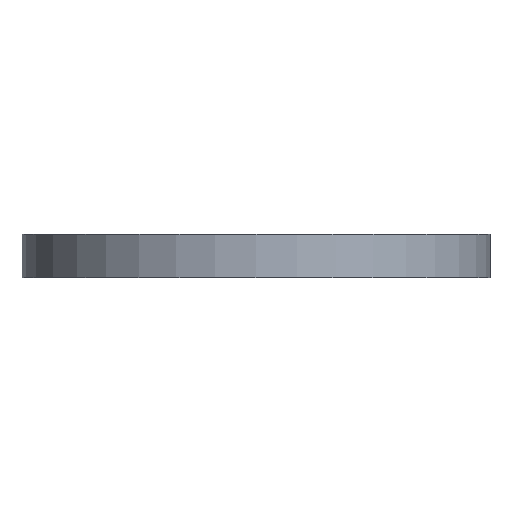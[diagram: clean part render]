
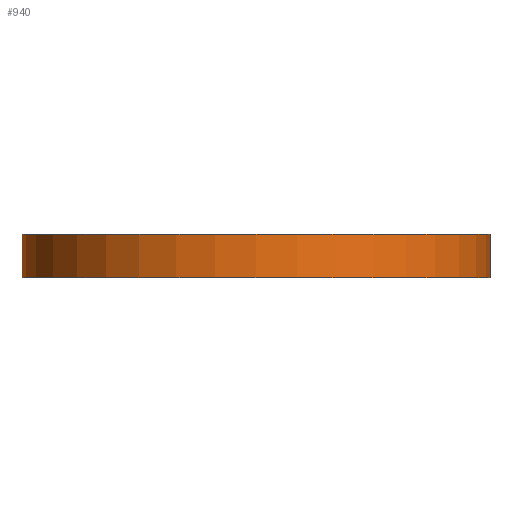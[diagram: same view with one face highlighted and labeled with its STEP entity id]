
A CAD part, front view. The second image highlights one B-rep face of the part: STEP entity #940.
In plain terms, the highlighted cylindrical face has radius 257.5 mm (diameter 515 mm), a partial arc.
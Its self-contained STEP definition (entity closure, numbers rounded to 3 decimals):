
#46 = VERTEX_POINT ( 'NONE', #1213 ) ;
#55 = AXIS2_PLACEMENT_3D ( 'NONE', #1034, #1033, #1032 ) ;
#82 = ORIENTED_EDGE ( 'NONE', *, *, #320, .F. ) ;
#85 = ORIENTED_EDGE ( 'NONE', *, *, #164, .F. ) ;
#86 = ORIENTED_EDGE ( 'NONE', *, *, #356, .T. ) ;
#96 = ORIENTED_EDGE ( 'NONE', *, *, #445, .F. ) ;
#148 = VERTEX_POINT ( 'NONE', #1165 ) ;
#164 = EDGE_CURVE ( 'NONE', #1393, #46, #1300, .T. ) ;
#248 = CARTESIAN_POINT ( 'NONE',  ( 257.5, 0., -48. ) ) ;
#320 = EDGE_CURVE ( 'NONE', #46, #148, #1082, .T. ) ;
#323 = CARTESIAN_POINT ( 'NONE',  ( 257.5, 0., 0. ) ) ;
#356 = EDGE_CURVE ( 'NONE', #1393, #1311, #1072, .T. ) ;
#403 = VECTOR ( 'NONE', #1078, 1000. ) ;
#445 = EDGE_CURVE ( 'NONE', #148, #1311, #464, .T. ) ;
#464 = CIRCLE ( 'NONE', #55, 257.5 ) ;
#610 = DIRECTION ( 'NONE',  ( 1., 0., 0. ) ) ;
#611 = DIRECTION ( 'NONE',  ( 0., 0., 1. ) ) ;
#613 = CARTESIAN_POINT ( 'NONE',  ( 0., 0., -125. ) ) ;
#616 = CYLINDRICAL_SURFACE ( 'NONE', #1176, 257.5 ) ;
#617 = FACE_OUTER_BOUND ( 'NONE', #1310, .T. ) ;
#940 = ADVANCED_FACE ( 'NONE', ( #617 ), #616, .T. ) ;
#1032 = DIRECTION ( 'NONE',  ( 1., 0., 0. ) ) ;
#1033 = DIRECTION ( 'NONE',  ( 0., 0., 1. ) ) ;
#1034 = CARTESIAN_POINT ( 'NONE',  ( 0., 0., 0. ) ) ;
#1068 = DIRECTION ( 'NONE',  ( 0., 0., 1. ) ) ;
#1069 = CARTESIAN_POINT ( 'NONE',  ( 257.5, 0., -125. ) ) ;
#1071 = VECTOR ( 'NONE', #1068, 1000. ) ;
#1072 = LINE ( 'NONE', #1069, #1071 ) ;
#1078 = DIRECTION ( 'NONE',  ( 0., 0., 1. ) ) ;
#1081 = CARTESIAN_POINT ( 'NONE',  ( -257.5, 0., -125. ) ) ;
#1082 = LINE ( 'NONE', #1081, #403 ) ;
#1133 = AXIS2_PLACEMENT_3D ( 'NONE', #1150, #1148, #1147 ) ;
#1147 = DIRECTION ( 'NONE',  ( -1., 0., 0. ) ) ;
#1148 = DIRECTION ( 'NONE',  ( 0., 0., -1. ) ) ;
#1150 = CARTESIAN_POINT ( 'NONE',  ( 0., 0., -48. ) ) ;
#1165 = CARTESIAN_POINT ( 'NONE',  ( -257.5, 0., 0. ) ) ;
#1176 = AXIS2_PLACEMENT_3D ( 'NONE', #613, #611, #610 ) ;
#1213 = CARTESIAN_POINT ( 'NONE',  ( -257.5, 0., -48. ) ) ;
#1300 = CIRCLE ( 'NONE', #1133, 257.5 ) ;
#1310 = EDGE_LOOP ( 'NONE', ( #82, #85, #86, #96 ) ) ;
#1311 = VERTEX_POINT ( 'NONE', #323 ) ;
#1393 = VERTEX_POINT ( 'NONE', #248 ) ;
